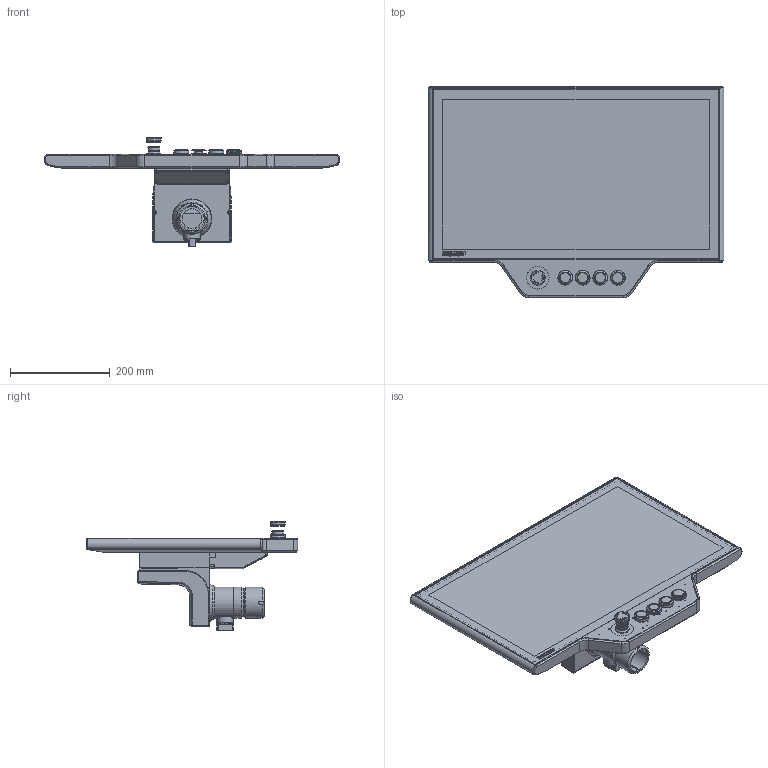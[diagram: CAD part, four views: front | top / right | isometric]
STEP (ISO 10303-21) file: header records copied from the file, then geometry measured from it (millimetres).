
FILE_DESCRIPTION(/* description */ ('-'),/* implementation_level */ '2;1');
FILE_NAME(/* name */ 'C:\Export\0000009834.stp',/* time_stamp */ '2021-09-10T12:06:33+02:00',/* author */ ('-'),/* organization */ ('(c) Beckhoff Automation GmbH & Co. KG, 33415 Verl'),/* preprocessor_version */ 'ST-DEVELOPER v18.1',/* originating_system */ 'Autodesk Inventor 2020',/* authorisation */ '-');
FILE_SCHEMA (('AUTOMOTIVE_DESIGN { 1 0 10303 214 3 1 1 }'));
Products named in the file (1): CP3924-0000-G05x-M753_DS
Bounding box: 592.13 x 423.35 x 218.23 mm (x, y, z)
Volume: 7907068.6 mm3; surface area: 840571.5 mm2
Topology: 6 solids, 48 shells, 1911 faces, 5262 edges, 3542 vertices
Faces by surface type: plane 886, cylinder 633, cone 161, bspline 161, torus 61, sphere 9
Full cylindrical faces by diameter (mm): 2.459 x20, 2.5 x3, 2.693 x6, 3 x9, 3.2 x7, 3.242 x11, 3.4 x4, 4 x8, 4.134 x1, 4.25 x3, 4.917 x4, 5 x2, 5.2 x6, 5.5 x12, 6.2 x1, 6.647 x1, 7 x3, 8.5 x2, 8.7 x1, 9 x4, 12.2 x1, 13 x1, 15 x4, 15.4 x1, 18 x1, 19 x3, 19.85 x3, 20 x3, 20.9 x3, 21 x1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
Entity records: 72320 total; most frequent: CARTESIAN_POINT 20789, ORIENTED_EDGE 10476, DIRECTION 10410, EDGE_CURVE 5238, AXIS2_PLACEMENT_3D 3957, VERTEX_POINT 3550, LINE 2496, VECTOR 2496
